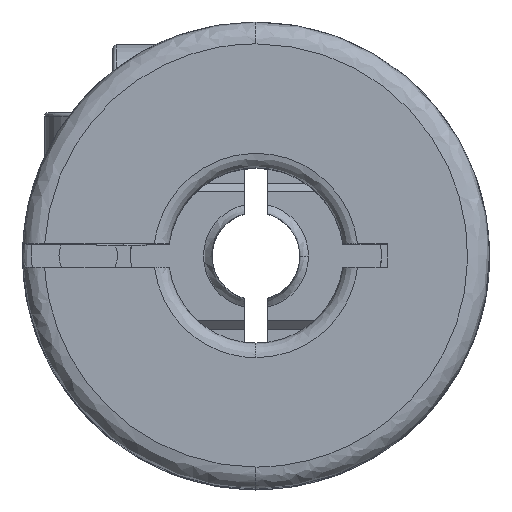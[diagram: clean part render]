
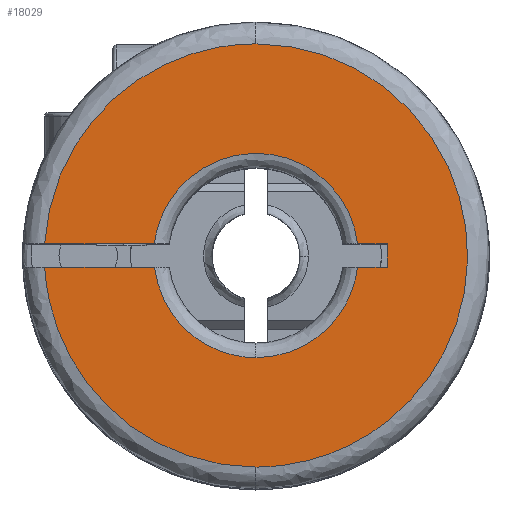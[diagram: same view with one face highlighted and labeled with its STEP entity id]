
A CAD part, top view. The second image highlights one B-rep face of the part: STEP entity #18029.
In plain terms, the highlighted planar face has unit normal (0, 0, 1).
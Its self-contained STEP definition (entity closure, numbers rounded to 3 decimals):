
#1335 = EDGE_CURVE ( 'NONE', #1387, #20568, #9862, .T. ) ;
#1387 = VERTEX_POINT ( 'NONE', #9857 ) ;
#1488 = CARTESIAN_POINT ( 'NONE',  ( 1.121, -5.255, 15.552 ) ) ;
#1509 = DIRECTION ( 'NONE',  ( 0., -1., 0. ) ) ;
#1510 = DIRECTION ( 'NONE',  ( 0., 0., -1. ) ) ;
#1511 = CARTESIAN_POINT ( 'NONE',  ( 8.458, 9.332, 15.552 ) ) ;
#1513 = AXIS2_PLACEMENT_3D ( 'NONE', #1511, #1510, #1509 ) ;
#1514 = PLANE ( 'NONE',  #1513 ) ;
#1515 = CARTESIAN_POINT ( 'NONE',  ( -6.118, 1.595, 15.552 ) ) ;
#1517 = FACE_OUTER_BOUND ( 'NONE', #18026, .T. ) ;
#1539 = CARTESIAN_POINT ( 'NONE',  ( -6.118, 1.595, 15.552 ) ) ;
#1540 = CARTESIAN_POINT ( 'NONE',  ( -5.894, -2.466, 15.552 ) ) ;
#1541 = CARTESIAN_POINT ( 'NONE',  ( -2.938, -5.255, 15.552 ) ) ;
#1542 = CARTESIAN_POINT ( 'NONE',  ( 1.121, -5.255, 15.552 ) ) ;
#1543 =( BOUNDED_CURVE ( )  B_SPLINE_CURVE ( 3, ( #1542, #1541, #1540, #1539 ),
 .UNSPECIFIED., .F., .F. ) 
 B_SPLINE_CURVE_WITH_KNOTS ( ( 4, 4 ),
 ( 0., 1. ),
 .UNSPECIFIED. ) 
 CURVE ( )  GEOMETRIC_REPRESENTATION_ITEM ( )  RATIONAL_B_SPLINE_CURVE ( ( 0.957, 0.781, 0.779, 0.951 ) ) 
 REPRESENTATION_ITEM ( '' )  );
#4151 = DIRECTION ( 'NONE',  ( -1., 0., 0. ) ) ;
#4152 = VECTOR ( 'NONE', #4151, 1000. ) ;
#4153 = CARTESIAN_POINT ( 'NONE',  ( 1.126, 2.395, 15.552 ) ) ;
#4154 = LINE ( 'NONE', #4153, #4152 ) ;
#4335 = CARTESIAN_POINT ( 'NONE',  ( 1.121, -1.505, 15.552 ) ) ;
#4336 = CARTESIAN_POINT ( 'NONE',  ( -0.747, -1.505, 15.552 ) ) ;
#4337 = CARTESIAN_POINT ( 'NONE',  ( -2.143, -0.262, 15.552 ) ) ;
#4338 = CARTESIAN_POINT ( 'NONE',  ( -2.356, 1.595, 15.552 ) ) ;
#4339 =( BOUNDED_CURVE ( )  B_SPLINE_CURVE ( 3, ( #4338, #4337, #4336, #4335 ),
 .UNSPECIFIED., .F., .T. ) 
 B_SPLINE_CURVE_WITH_KNOTS ( ( 4, 4 ),
 ( 0., 1. ),
 .UNSPECIFIED. ) 
 CURVE ( )  GEOMETRIC_REPRESENTATION_ITEM ( )  RATIONAL_B_SPLINE_CURVE ( ( 0.953, 0.793, 0.794, 0.957 ) ) 
 REPRESENTATION_ITEM ( '' )  );
#4402 = DIRECTION ( 'NONE',  ( 1., 0., 0. ) ) ;
#4403 = VECTOR ( 'NONE', #4402, 1000. ) ;
#4404 = CARTESIAN_POINT ( 'NONE',  ( 1.126, 1.595, 15.552 ) ) ;
#4405 = LINE ( 'NONE', #4404, #4403 ) ;
#4476 = CARTESIAN_POINT ( 'NONE',  ( -6.118, 2.395, 15.552 ) ) ;
#4478 = CARTESIAN_POINT ( 'NONE',  ( -2.356, 1.595, 15.552 ) ) ;
#4719 =( BOUNDED_CURVE ( )  B_SPLINE_CURVE ( 3, ( #4760, #4759, #4758, #4757 ),
 .UNSPECIFIED., .F., .F. ) 
 B_SPLINE_CURVE_WITH_KNOTS ( ( 4, 4 ),
 ( 0., 1. ),
 .UNSPECIFIED. ) 
 CURVE ( )  GEOMETRIC_REPRESENTATION_ITEM ( )  RATIONAL_B_SPLINE_CURVE ( ( 0.951, 0.779, 0.781, 0.957 ) ) 
 REPRESENTATION_ITEM ( '' )  );
#4751 = CARTESIAN_POINT ( 'NONE',  ( 1.121, -5.255, 15.552 ) ) ;
#4752 = CARTESIAN_POINT ( 'NONE',  ( 15.621, -5.255, 15.552 ) ) ;
#4753 = CARTESIAN_POINT ( 'NONE',  ( 15.621, 9.245, 15.552 ) ) ;
#4754 = CARTESIAN_POINT ( 'NONE',  ( 1.121, 9.245, 15.552 ) ) ;
#4755 =( BOUNDED_CURVE ( )  B_SPLINE_CURVE ( 3, ( #4754, #4753, #4752, #4751 ),
 .UNSPECIFIED., .F., .T. ) 
 B_SPLINE_CURVE_WITH_KNOTS ( ( 4, 4 ),
 ( 0., 1. ),
 .UNSPECIFIED. ) 
 CURVE ( )  GEOMETRIC_REPRESENTATION_ITEM ( )  RATIONAL_B_SPLINE_CURVE ( ( 0.957, 0.319, 0.319, 0.957 ) ) 
 REPRESENTATION_ITEM ( '' )  );
#4757 = CARTESIAN_POINT ( 'NONE',  ( 1.121, 9.245, 15.552 ) ) ;
#4758 = CARTESIAN_POINT ( 'NONE',  ( -2.938, 9.245, 15.552 ) ) ;
#4759 = CARTESIAN_POINT ( 'NONE',  ( -5.894, 6.457, 15.552 ) ) ;
#4760 = CARTESIAN_POINT ( 'NONE',  ( -6.118, 2.395, 15.552 ) ) ;
#4805 = CARTESIAN_POINT ( 'NONE',  ( 1.121, 9.245, 15.552 ) ) ;
#4909 = CARTESIAN_POINT ( 'NONE',  ( 4.598, 1.595, 15.552 ) ) ;
#4941 = CARTESIAN_POINT ( 'NONE',  ( 4.598, 1.595, 15.552 ) ) ;
#4942 = CARTESIAN_POINT ( 'NONE',  ( 4.384, -0.262, 15.552 ) ) ;
#4943 = CARTESIAN_POINT ( 'NONE',  ( 2.988, -1.505, 15.552 ) ) ;
#4944 = CARTESIAN_POINT ( 'NONE',  ( 1.121, -1.505, 15.552 ) ) ;
#4945 = CARTESIAN_POINT ( 'NONE',  ( 1.121, -1.505, 15.552 ) ) ;
#4946 =( BOUNDED_CURVE ( )  B_SPLINE_CURVE ( 3, ( #4944, #4943, #4942, #4941 ),
 .UNSPECIFIED., .F., .F. ) 
 B_SPLINE_CURVE_WITH_KNOTS ( ( 4, 4 ),
 ( 0., 1. ),
 .UNSPECIFIED. ) 
 CURVE ( )  GEOMETRIC_REPRESENTATION_ITEM ( )  RATIONAL_B_SPLINE_CURVE ( ( 0.957, 0.794, 0.793, 0.953 ) ) 
 REPRESENTATION_ITEM ( '' )  );
#5058 = DIRECTION ( 'NONE',  ( 0., -1., 0. ) ) ;
#5059 = VECTOR ( 'NONE', #5058, 1000. ) ;
#5060 = CARTESIAN_POINT ( 'NONE',  ( 5.621, 1.995, 15.552 ) ) ;
#5061 = LINE ( 'NONE', #5060, #5059 ) ;
#5062 = CARTESIAN_POINT ( 'NONE',  ( 5.621, 2.395, 15.552 ) ) ;
#5087 = DIRECTION ( 'NONE',  ( 1., 0., 0. ) ) ;
#5088 = VECTOR ( 'NONE', #5087, 1000. ) ;
#5089 = CARTESIAN_POINT ( 'NONE',  ( 4.857, 2.395, 15.552 ) ) ;
#5090 = LINE ( 'NONE', #5089, #5088 ) ;
#9351 = VERTEX_POINT ( 'NONE', #18649 ) ;
#9392 = EDGE_CURVE ( 'NONE', #9400, #9351, #18770, .T. ) ;
#9400 = VERTEX_POINT ( 'NONE', #18816 ) ;
#9857 = CARTESIAN_POINT ( 'NONE',  ( 5.621, 1.595, 15.552 ) ) ;
#9859 = DIRECTION ( 'NONE',  ( -1., 0., 0. ) ) ;
#9860 = VECTOR ( 'NONE', #9859, 1000. ) ;
#9861 = CARTESIAN_POINT ( 'NONE',  ( 4.857, 1.595, 15.552 ) ) ;
#9862 = LINE ( 'NONE', #9861, #9860 ) ;
#17925 = ORIENTED_EDGE ( 'NONE', *, *, #9392, .F. ) ;
#17959 = ORIENTED_EDGE ( 'NONE', *, *, #18263, .F. ) ;
#18018 = VERTEX_POINT ( 'NONE', #1488 ) ;
#18020 = ORIENTED_EDGE ( 'NONE', *, *, #18034, .F. ) ;
#18026 = EDGE_LOOP ( 'NONE', ( #18020, #19958, #19972, #17959, #17925, #20575, #20496, #20566, #20587, #18332, #18359 ) ) ;
#18029 = ADVANCED_FACE ( 'NONE', ( #1517 ), #1514, .F. ) ;
#18030 = VERTEX_POINT ( 'NONE', #1515 ) ;
#18034 = EDGE_CURVE ( 'NONE', #18018, #18030, #1543, .T. ) ;
#18263 = EDGE_CURVE ( 'NONE', #9351, #18358, #4154, .T. ) ;
#18320 = EDGE_CURVE ( 'NONE', #18355, #20573, #4339, .T. ) ;
#18332 = ORIENTED_EDGE ( 'NONE', *, *, #18320, .F. ) ;
#18345 = EDGE_CURVE ( 'NONE', #18030, #18355, #4405, .T. ) ;
#18355 = VERTEX_POINT ( 'NONE', #4478 ) ;
#18358 = VERTEX_POINT ( 'NONE', #4476 ) ;
#18359 = ORIENTED_EDGE ( 'NONE', *, *, #18345, .F. ) ;
#18649 = CARTESIAN_POINT ( 'NONE',  ( -2.356, 2.395, 15.552 ) ) ;
#18766 = CARTESIAN_POINT ( 'NONE',  ( -2.356, 2.395, 15.552 ) ) ;
#18767 = CARTESIAN_POINT ( 'NONE',  ( -1.709, 8.019, 15.552 ) ) ;
#18768 = CARTESIAN_POINT ( 'NONE',  ( 3.951, 8.019, 15.552 ) ) ;
#18769 = CARTESIAN_POINT ( 'NONE',  ( 4.598, 2.395, 15.552 ) ) ;
#18770 =( BOUNDED_CURVE ( )  B_SPLINE_CURVE ( 3, ( #18769, #18768, #18767, #18766 ),
 .UNSPECIFIED., .F., .T. ) 
 B_SPLINE_CURVE_WITH_KNOTS ( ( 4, 4 ),
 ( 0., 1. ),
 .UNSPECIFIED. ) 
 CURVE ( )  GEOMETRIC_REPRESENTATION_ITEM ( )  RATIONAL_B_SPLINE_CURVE ( ( 0.942, 0.386, 0.386, 0.942 ) ) 
 REPRESENTATION_ITEM ( '' )  );
#18816 = CARTESIAN_POINT ( 'NONE',  ( 4.598, 2.395, 15.552 ) ) ;
#19958 = ORIENTED_EDGE ( 'NONE', *, *, #19968, .F. ) ;
#19965 = EDGE_CURVE ( 'NONE', #18358, #20429, #4719, .T. ) ;
#19968 = EDGE_CURVE ( 'NONE', #20429, #18018, #4755, .T. ) ;
#19972 = ORIENTED_EDGE ( 'NONE', *, *, #19965, .F. ) ;
#20429 = VERTEX_POINT ( 'NONE', #4805 ) ;
#20496 = ORIENTED_EDGE ( 'NONE', *, *, #20620, .T. ) ;
#20566 = ORIENTED_EDGE ( 'NONE', *, *, #1335, .T. ) ;
#20568 = VERTEX_POINT ( 'NONE', #4909 ) ;
#20572 = EDGE_CURVE ( 'NONE', #20573, #20568, #4946, .T. ) ;
#20573 = VERTEX_POINT ( 'NONE', #4945 ) ;
#20575 = ORIENTED_EDGE ( 'NONE', *, *, #21018, .T. ) ;
#20587 = ORIENTED_EDGE ( 'NONE', *, *, #20572, .F. ) ;
#20614 = VERTEX_POINT ( 'NONE', #5062 ) ;
#20620 = EDGE_CURVE ( 'NONE', #20614, #1387, #5061, .T. ) ;
#21018 = EDGE_CURVE ( 'NONE', #9400, #20614, #5090, .T. ) ;
